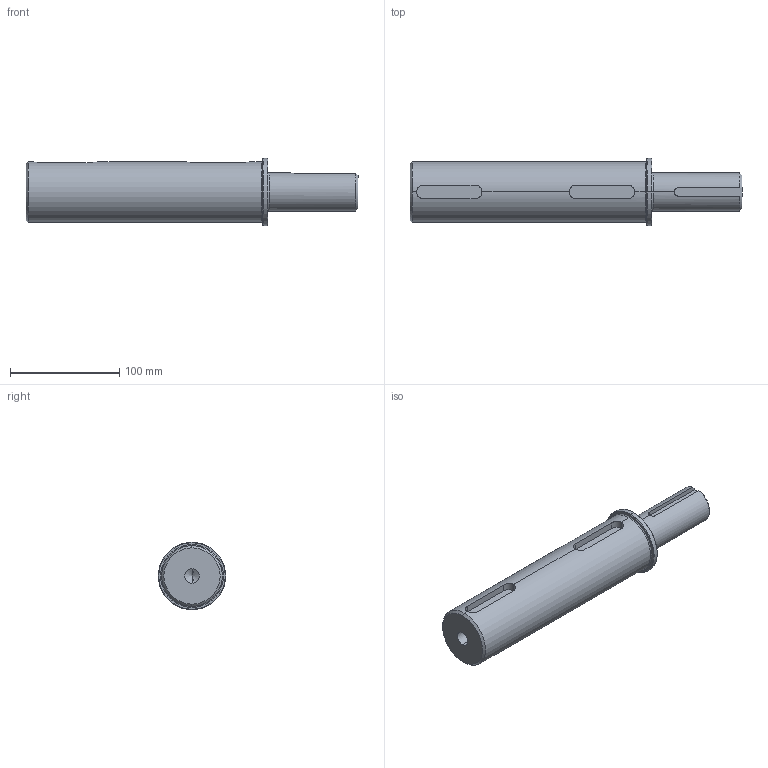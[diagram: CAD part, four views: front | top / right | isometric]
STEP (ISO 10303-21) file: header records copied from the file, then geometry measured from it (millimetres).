
FILE_DESCRIPTION (( 'STEP AP203' ), '1' );
FILE_NAME ('SSHdR325-OPS-S-1.375.STEP', '2023-01-07T03:45:19', ( '' ), ( '' ), 'SwSTEP 2.0', 'SolidWorks 2012', '' );
FILE_SCHEMA (( 'CONFIG_CONTROL_DESIGN' ));
Length unit declared in the file: millimetre
Products named in the file (1): SSHdR325-OPS-S-1.375
Bounding box: 304.45 x 62 x 62 mm (x, y, z)
Volume: 601706.8 mm3; surface area: 57226.2 mm2
Topology: 1 solids, 1 shells, 41 faces, 97 edges, 59 vertices
Faces by surface type: cylinder 15, plane 13, cone 9, torus 4
Entity records: 1420 total; most frequent: CARTESIAN_POINT 400, DIRECTION 205, ORIENTED_EDGE 190, EDGE_CURVE 95, AXIS2_PLACEMENT_3D 80, VERTEX_POINT 59, LINE 45, VECTOR 45
